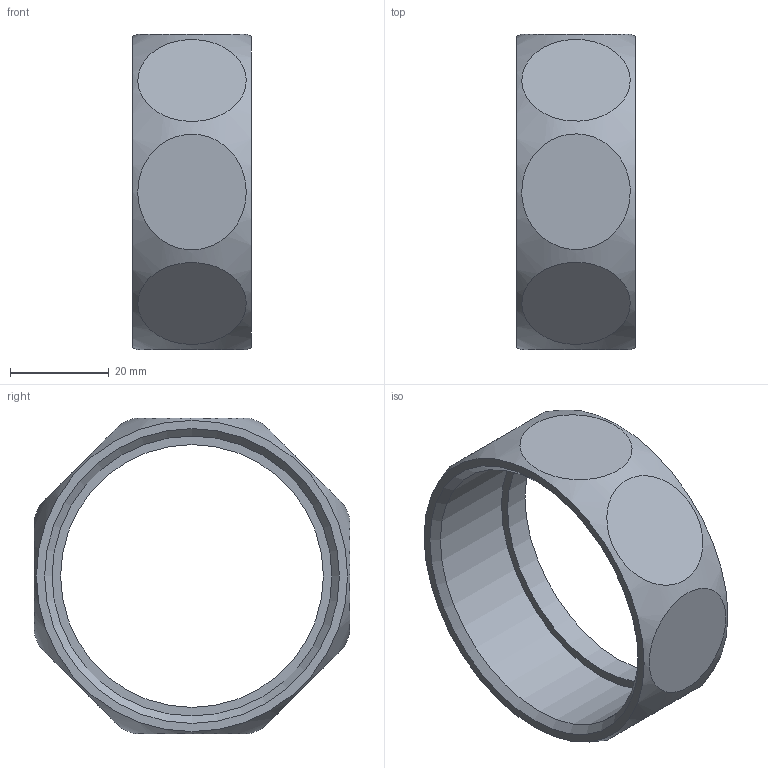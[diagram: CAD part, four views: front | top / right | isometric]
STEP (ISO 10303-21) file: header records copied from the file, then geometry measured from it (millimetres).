
FILE_DESCRIPTION(/* description */ (''),/* implementation_level */ '2;1');
FILE_NAME(/* name */ 'C:\Users\gomulka\Desktop\Nowy folder (2)\14374_2(2).stp',/* time_stamp */ '2017-10-19T10:19:16+02:00',/* author */ ('gomulka'),/* organization */ (''),/* preprocessor_version */ 'ST-DEVELOPER v15.6',/* originating_system */ 'Autodesk Inventor 2015',/* authorisation */ '');
FILE_SCHEMA (('AUTOMOTIVE_DESIGN { 1 0 10303 214 3 1 1 }'));
Length unit declared in the file: millimetre
Products named in the file (1): 14374_2(2)
Bounding box: 24 x 63.85 x 63.85 mm (x, y, z)
Volume: 20306.6 mm3; surface area: 10876.5 mm2
Topology: 1 solids, 1 shells, 15 faces, 23 edges, 18 vertices
Faces by surface type: plane 11, cylinder 2, cone 1, bspline 1
Full cylindrical faces by diameter (mm): 53.2 x1, 56.66 x1
Entity records: 950 total; most frequent: CARTESIAN_POINT 669, DIRECTION 48, ORIENTED_EDGE 40, EDGE_LOOP 28, AXIS2_PLACEMENT_3D 24, EDGE_CURVE 20, VERTEX_POINT 18, FACE_OUTER_BOUND 15
